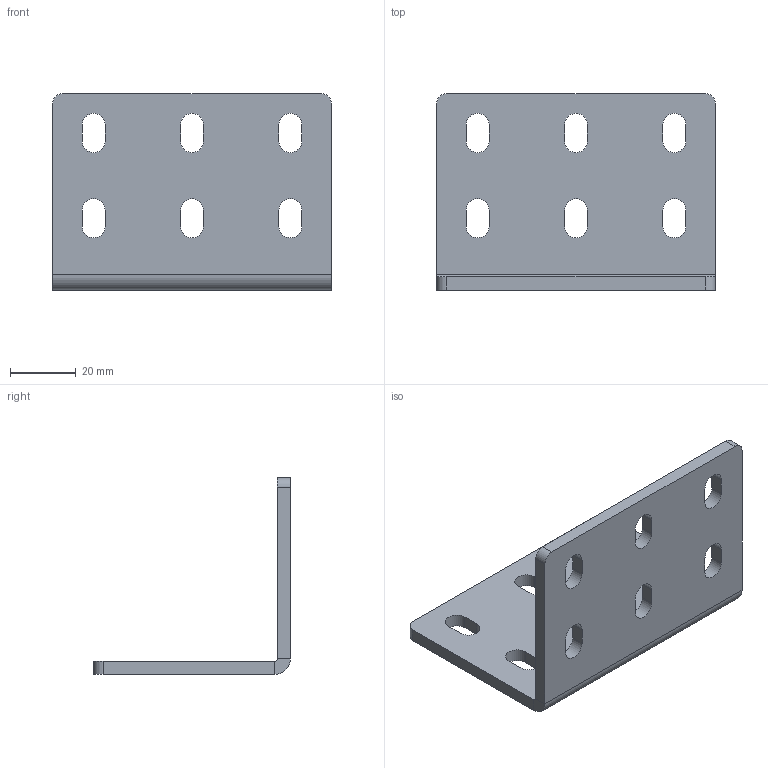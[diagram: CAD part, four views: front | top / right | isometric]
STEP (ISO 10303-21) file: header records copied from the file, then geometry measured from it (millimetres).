
FILE_DESCRIPTION (( 'STEP AP203' ), '1' );
FILE_NAME ('DSB6085-6.STEP', '2020-03-10T07:44:05', ( '' ), ( '' ), 'SwSTEP 2.0', 'SolidWorks 2017', '' );
FILE_SCHEMA (( 'CONFIG_CONTROL_DESIGN' ));
Length unit declared in the file: millimetre
Products named in the file (1): DSB6085-6
Bounding box: 85 x 60 x 60 mm (x, y, z)
Volume: 35482.5 mm3; surface area: 20854.8 mm2
Topology: 1 solids, 1 shells, 72 faces, 202 edges, 132 vertices
Faces by surface type: cylinder 36, plane 36
Entity records: 2459 total; most frequent: DIRECTION 420, CARTESIAN_POINT 407, ORIENTED_EDGE 404, EDGE_CURVE 202, AXIS2_PLACEMENT_3D 145, VERTEX_POINT 132, VECTOR 130, LINE 130
